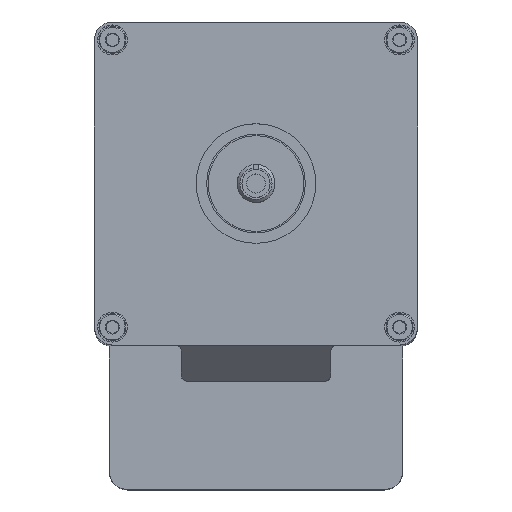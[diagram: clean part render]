
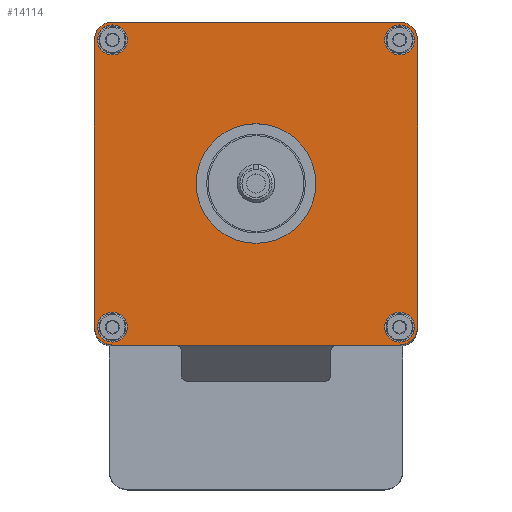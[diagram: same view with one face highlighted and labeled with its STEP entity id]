
A CAD part, top view. The second image highlights one B-rep face of the part: STEP entity #14114.
In plain terms, the highlighted planar face has unit normal (0, 0, 1).
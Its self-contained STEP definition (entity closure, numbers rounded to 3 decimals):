
#13333=CARTESIAN_POINT('',(-8.257,-14.066,5.0));
#13334=VERTEX_POINT('',#13333);
#13335=CARTESIAN_POINT('',(-18.257,-14.066,5.0));
#13336=DIRECTION('',(0.0,0.0,-1.0));
#13337=DIRECTION('',(-1.0,0.0,0.0));
#13338=AXIS2_PLACEMENT_3D('',#13335,#13336,#13337);
#13339=CIRCLE('',#13338,10.0);
#13340=EDGE_CURVE('',#13334,#13334,#13339,.T.);
#13383=CARTESIAN_POINT('',(8.243,-38.066,5.0));
#13384=VERTEX_POINT('',#13383);
#13385=CARTESIAN_POINT('',(5.743,-38.066,5.0));
#13386=DIRECTION('',(0.0,0.0,-1.0));
#13387=DIRECTION('',(1.0,0.0,0.0));
#13388=AXIS2_PLACEMENT_3D('',#13385,#13386,#13387);
#13389=CIRCLE('',#13388,2.5);
#13390=EDGE_CURVE('',#13384,#13384,#13389,.T.);
#13452=CARTESIAN_POINT('',(-39.757,9.934,5.0));
#13453=VERTEX_POINT('',#13452);
#13454=CARTESIAN_POINT('',(-42.257,9.934,5.0));
#13455=DIRECTION('',(0.0,0.0,-1.0));
#13456=DIRECTION('',(1.0,0.0,0.0));
#13457=AXIS2_PLACEMENT_3D('',#13454,#13455,#13456);
#13458=CIRCLE('',#13457,2.5);
#13459=EDGE_CURVE('',#13453,#13453,#13458,.T.);
#13521=CARTESIAN_POINT('',(8.243,9.934,5.0));
#13522=VERTEX_POINT('',#13521);
#13523=CARTESIAN_POINT('',(5.743,9.934,5.0));
#13524=DIRECTION('',(0.0,0.0,-1.0));
#13525=DIRECTION('',(1.0,0.0,0.0));
#13526=AXIS2_PLACEMENT_3D('',#13523,#13524,#13525);
#13527=CIRCLE('',#13526,2.5);
#13528=EDGE_CURVE('',#13522,#13522,#13527,.T.);
#13590=CARTESIAN_POINT('',(-39.757,-38.066,5.0));
#13591=VERTEX_POINT('',#13590);
#13592=CARTESIAN_POINT('',(-42.257,-38.066,5.0));
#13593=DIRECTION('',(0.0,0.0,-1.0));
#13594=DIRECTION('',(1.0,0.0,0.0));
#13595=AXIS2_PLACEMENT_3D('',#13592,#13593,#13594);
#13596=CIRCLE('',#13595,2.5);
#13597=EDGE_CURVE('',#13591,#13591,#13596,.T.);
#13802=CARTESIAN_POINT('',(-45.257,9.934,5.0));
#13803=VERTEX_POINT('',#13802);
#13804=CARTESIAN_POINT('',(-42.257,12.934,5.0));
#13805=VERTEX_POINT('',#13804);
#13806=CARTESIAN_POINT('',(-42.257,9.934,5.0));
#13807=DIRECTION('',(0.0,0.0,-1.));
#13808=DIRECTION('',(-0.707,0.707,0.0));
#13809=AXIS2_PLACEMENT_3D('',#13806,#13807,#13808);
#13810=CIRCLE('',#13809,3.);
#13811=EDGE_CURVE('',#13803,#13805,#13810,.T.);
#13853=CARTESIAN_POINT('',(-45.257,-38.066,5.0));
#13854=VERTEX_POINT('',#13853);
#13861=CARTESIAN_POINT('',(-45.257,-38.066,5.0));
#13862=DIRECTION('',(0.0,1.0,0.0));
#13863=VECTOR('',#13862,48.);
#13864=LINE('',#13861,#13863);
#13865=EDGE_CURVE('',#13854,#13803,#13864,.T.);
#13949=CARTESIAN_POINT('',(8.743,-38.066,5.0));
#13950=VERTEX_POINT('',#13949);
#13951=CARTESIAN_POINT('',(5.743,-41.066,5.0));
#13952=VERTEX_POINT('',#13951);
#13953=CARTESIAN_POINT('',(5.743,-38.066,5.0));
#13954=DIRECTION('',(0.0,0.0,-1.0));
#13955=DIRECTION('',(0.707,-0.707,0.0));
#13956=AXIS2_PLACEMENT_3D('',#13953,#13954,#13955);
#13957=CIRCLE('',#13956,3.0);
#13958=EDGE_CURVE('',#13950,#13952,#13957,.T.);
#13982=CARTESIAN_POINT('',(-42.257,-41.066,5.0));
#13983=VERTEX_POINT('',#13982);
#13984=CARTESIAN_POINT('',(5.743,-41.066,5.0));
#13985=DIRECTION('',(-1.0,0.0,0.0));
#13986=VECTOR('',#13985,48.);
#13987=LINE('',#13984,#13986);
#13988=EDGE_CURVE('',#13952,#13983,#13987,.T.);
#14005=CARTESIAN_POINT('',(-42.257,-38.066,5.0));
#14006=DIRECTION('',(0.0,0.0,-1.0));
#14007=DIRECTION('',(-0.707,-0.707,0.0));
#14008=AXIS2_PLACEMENT_3D('',#14005,#14006,#14007);
#14009=CIRCLE('',#14008,3.0);
#14010=EDGE_CURVE('',#13983,#13854,#14009,.T.);
#14023=CARTESIAN_POINT('',(5.743,12.934,5.0));
#14024=VERTEX_POINT('',#14023);
#14025=CARTESIAN_POINT('',(8.743,9.934,5.0));
#14026=VERTEX_POINT('',#14025);
#14027=CARTESIAN_POINT('',(5.743,9.934,5.0));
#14028=DIRECTION('',(0.0,0.0,-1.0));
#14029=DIRECTION('',(0.707,0.707,0.0));
#14030=AXIS2_PLACEMENT_3D('',#14027,#14028,#14029);
#14031=CIRCLE('',#14030,3.);
#14032=EDGE_CURVE('',#14024,#14026,#14031,.T.);
#14058=CARTESIAN_POINT('',(8.743,9.934,5.0));
#14059=DIRECTION('',(0.0,-1.0,0.0));
#14060=VECTOR('',#14059,48.0);
#14061=LINE('',#14058,#14060);
#14062=EDGE_CURVE('',#14026,#13950,#14061,.T.);
#14073=CARTESIAN_POINT('',(-42.257,12.934,5.0));
#14074=DIRECTION('',(1.0,0.0,0.0));
#14075=VECTOR('',#14074,48.);
#14076=LINE('',#14073,#14075);
#14077=EDGE_CURVE('',#13805,#14024,#14076,.T.);
#14084=CARTESIAN_POINT('',(-18.257,-14.066,5.0));
#14085=DIRECTION('',(0.0,0.0,1.0));
#14086=DIRECTION('',(1.0,0.0,0.0));
#14087=AXIS2_PLACEMENT_3D('',#14084,#14085,#14086);
#14088=PLANE('',#14087);
#14089=ORIENTED_EDGE('',*,*,#13811,.F.);
#14090=ORIENTED_EDGE('',*,*,#13865,.F.);
#14091=ORIENTED_EDGE('',*,*,#14010,.F.);
#14092=ORIENTED_EDGE('',*,*,#13988,.F.);
#14093=ORIENTED_EDGE('',*,*,#13958,.F.);
#14094=ORIENTED_EDGE('',*,*,#14062,.F.);
#14095=ORIENTED_EDGE('',*,*,#14032,.F.);
#14096=ORIENTED_EDGE('',*,*,#14077,.F.);
#14097=EDGE_LOOP('',(#14089,#14090,#14091,#14092,#14093,#14094,#14095,#14096));
#14098=FACE_OUTER_BOUND('',#14097,.T.);
#14099=ORIENTED_EDGE('',*,*,#13340,.T.);
#14100=EDGE_LOOP('',(#14099));
#14101=FACE_BOUND('',#14100,.T.);
#14102=ORIENTED_EDGE('',*,*,#13390,.T.);
#14103=EDGE_LOOP('',(#14102));
#14104=FACE_BOUND('',#14103,.T.);
#14105=ORIENTED_EDGE('',*,*,#13459,.T.);
#14106=EDGE_LOOP('',(#14105));
#14107=FACE_BOUND('',#14106,.T.);
#14108=ORIENTED_EDGE('',*,*,#13528,.T.);
#14109=EDGE_LOOP('',(#14108));
#14110=FACE_BOUND('',#14109,.T.);
#14111=ORIENTED_EDGE('',*,*,#13597,.T.);
#14112=EDGE_LOOP('',(#14111));
#14113=FACE_BOUND('',#14112,.T.);
#14114=ADVANCED_FACE('',(#14098,#14101,#14104,#14107,#14110,#14113),#14088,.T.);
